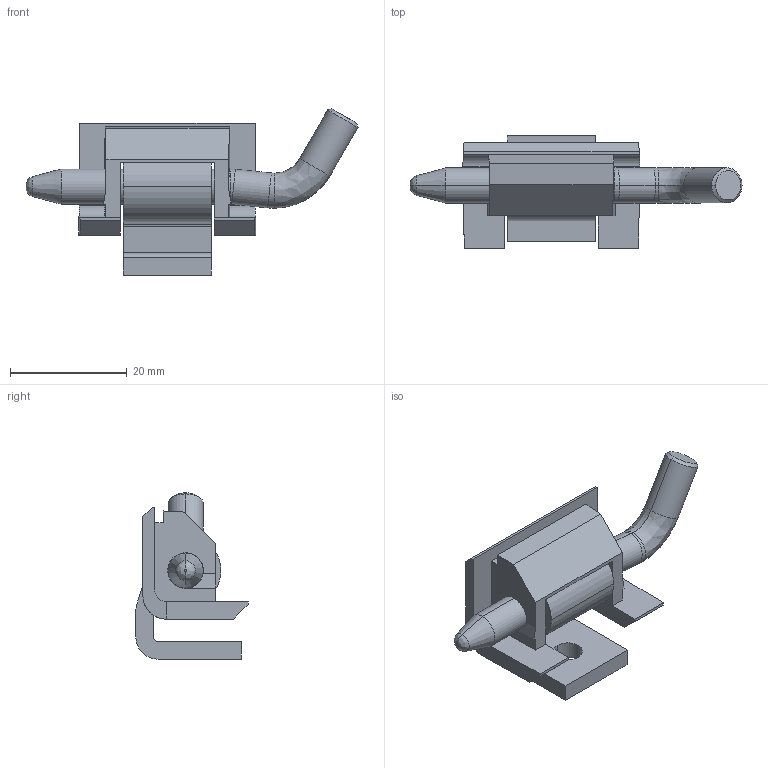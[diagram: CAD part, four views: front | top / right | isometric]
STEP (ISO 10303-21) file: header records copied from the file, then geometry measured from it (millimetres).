
FILE_DESCRIPTION (( 'STEP AP214' ), '1' );
FILE_NAME ('3.ZN75.003.STEP', '2016-09-02T10:01:04', ( '' ), ( '' ), 'SwSTEP 2.0', 'SolidWorks 2015', '' );
FILE_SCHEMA (( 'AUTOMOTIVE_DESIGN' ));
Length unit declared in the file: millimetre
Products named in the file (4): 3.ZN75.003; 3.ZN70.001.03_A; 3.ZN75.003.01_A; 3.ZN75.001.02_C
Assembly tree (3 placements, depth 2):
  3.ZN75.003
    3.ZN75.001.02_C
    3.ZN75.003.01_A
    3.ZN70.001.03_A
Bounding box: 56.8 x 19.2 x 28.45 mm (x, y, z)
Volume: 6167.4 mm3; surface area: 5591.4 mm2
Topology: 3 solids, 3 shells, 80 faces, 208 edges, 132 vertices
Faces by surface type: plane 43, cylinder 25, bspline 8, cone 4
Entity records: 2680 total; most frequent: CARTESIAN_POINT 594, ORIENTED_EDGE 416, DIRECTION 402, EDGE_CURVE 208, VECTOR 138, LINE 138, AXIS2_PLACEMENT_3D 132, VERTEX_POINT 132
